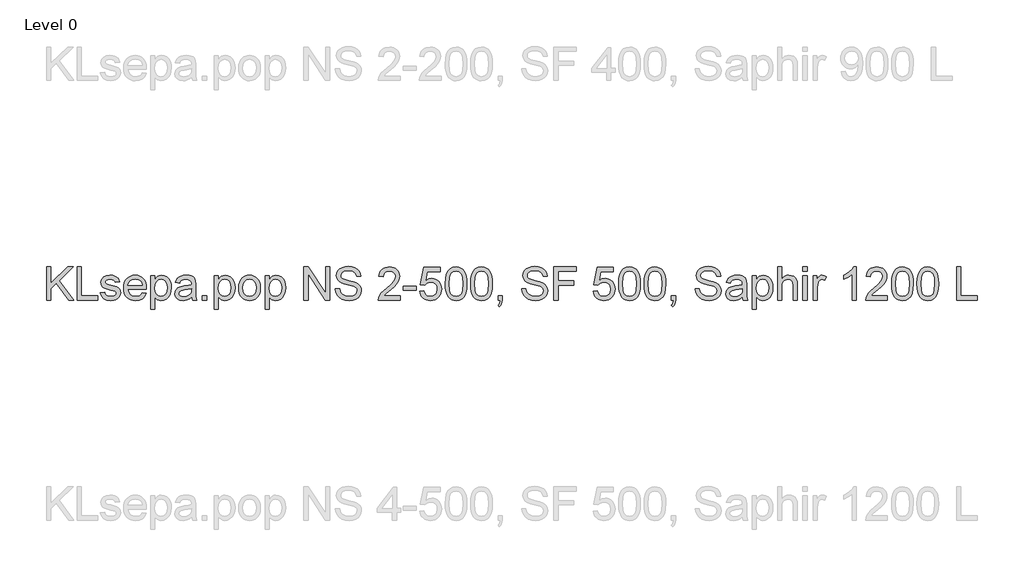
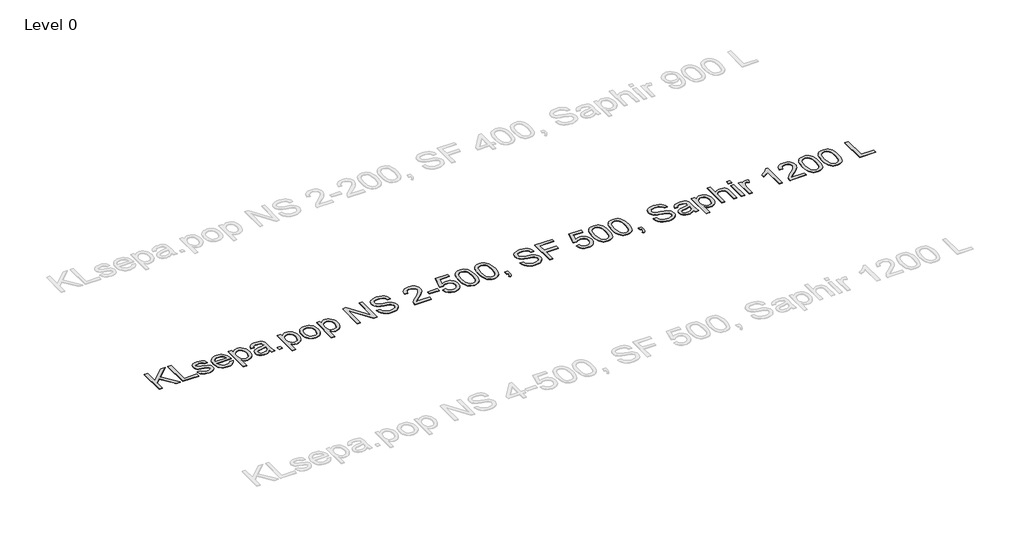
# One storey, part 10 of 15: 1 proxy.
"""IFC4 building model written with IfcOpenShell, lengths in millimetres."""

from ifc_helpers import new_model, si_unit, origin, origin_with_axes, place, context, project, spatial, polyline, outline, extrude, element, save

model = new_model("IFC4")

# Units and contexts
model_context = context("Model", 3, world=origin())
ifc_project = project(units=[si_unit("LENGTHUNIT", "METRE", prefix="MILLI")], contexts=[model_context])

# Site, building, storey
site = spatial("IfcSite", under=ifc_project)
building = spatial("IfcBuilding", under=site)
storey = spatial("IfcBuildingStorey", under=building, Name="Level 0", Elevation=0.0)

# Proxy
placement = place(None, origin())
element("IfcBuildingElementProxy", 1, Name="300mm Arial", ObjectType="300mm Arial", at=placement, inside=storey, context=model_context, shape_type="SweptSolid", body=[
    extrude(outline(polyline([(862.8420262, 2199.0232018), (862.8420262, 2500.3921323), (900.5131425, 2500.3921323), (900.5131425, 2352.8714522), (1055.0235805, 2500.3921323), (1107.7042822, 2500.3921323), (977.9890907, 2376.4894763), (1112.4131718, 2199.0232018), (1066.354346, 2199.0232018), (951.2808579, 2351.0320422), (900.5131425, 2302.6187717), (900.5131425, 2199.0232018), (862.8420262, 2199.0232018)])), origin_with_axes(), (0.0, 0.0, 1.0), 5.0),
    extrude(outline(polyline([(1140.666509, 2199.0232018), (1140.666509, 2500.3921323), (1178.3376253, 2500.3921323), (1178.3376253, 2236.6943181), (1329.0220905, 2236.6943181), (1329.0220905, 2199.0232018), (1140.666509, 2199.0232018)])), origin_with_axes(), (0.0, 0.0, 1.0), 5.0),
    extrude(outline(polyline([(1352.5665382, 2264.9476554), (1390.2376545, 2269.6565449), (1396.1789487, 2253.5433135), (1407.6752611, 2241.6975133), (1424.800168, 2234.4134498), (1447.6272458, 2231.9854286), (1470.1784121, 2234.2111147), (1486.0341261, 2240.8881729), (1495.4151169, 2250.5634693), (1498.5421139, 2261.7838702), (1495.3967228, 2271.3855903), (1485.9605497, 2278.706442), (1447.1857874, 2289.4485962), (1390.4583837, 2307.8794842), (1376.1017888, 2317.1409134), (1365.6999254, 2329.4005809), (1359.3815522, 2343.8767374), (1357.2754277, 2359.7876337), (1358.9676849, 2374.3833519), (1364.0444565, 2387.8570299), (1372.0458899, 2399.675239), (1382.5121326, 2409.3045503), (1406.4612505, 2420.4513747), (1438.8716543, 2425.0498997), (1463.3909893, 2423.2012926), (1484.7097509, 2417.6554716), (1501.8530519, 2408.9550624), (1513.8460049, 2397.642691), (1521.792256, 2382.881426), (1526.7954511, 2363.8343357), (1489.1243348, 2359.1254461), (1484.36946, 2370.9804434), (1474.960878, 2379.9107789), (1460.8066182, 2385.5117822), (1441.8147102, 2387.3787834), (1420.1832489, 2385.5945557), (1405.7622747, 2380.2418726), (1397.6504767, 2372.5163507), (1394.9465441, 2363.6136065), (1399.4347044, 2352.650723), (1413.4877966, 2344.3365899), (1445.9349886, 2336.3167624), (1501.2276525, 2318.5848503), (1515.8325677, 2310.1051703), (1526.9058157, 2298.4984933), (1533.8863766, 2283.7280312), (1536.2132302, 2265.7569957), (1533.4817064, 2247.178955), (1525.2871349, 2229.7045602), (1511.9422156, 2214.7041719), (1493.759648, 2203.5481504), (1471.7970928, 2196.6227718), (1447.112211, 2194.3143123), (1409.128395, 2198.7656844), (1381.4084866, 2212.1198009), (1362.9040223, 2234.2295088), (1352.5665382, 2264.9476554)])), origin_with_axes(), (0.0, 0.0, 1.0), 5.0),
    extrude(outline(polyline([(1733.5451324, 2264.9476554), (1770.4804847, 2260.2387658), (1757.1723536, 2232.4084929), (1735.9363654, 2211.6047661), (1707.2507668, 2198.6369257), (1671.5938044, 2194.3143123), (1648.2195022, 2196.1790141), (1627.3927827, 2201.7731197), (1609.1136461, 2211.0966291), (1593.3820923, 2224.1495421), (1580.7315501, 2240.5685754), (1571.6954486, 2259.9904455), (1566.2737877, 2282.4151523), (1564.4665674, 2307.842696), (1566.2921818, 2334.1324631), (1571.769025, 2357.3044302), (1580.897097, 2377.3585975), (1593.6763978, 2394.2949649), (1609.3665649, 2407.7502488), (1627.2272358, 2417.361166), (1647.2584104, 2423.1277162), (1669.4600889, 2425.0498997), (1690.9466966, 2423.1323148), (1710.3777638, 2417.3795601), (1727.7532903, 2407.7916356), (1743.0732761, 2394.3685413), (1755.5789647, 2377.4689621), (1764.5115994, 2357.451583), (1769.8711802, 2334.3164041), (1771.6577071, 2308.0634252), (1771.4369779, 2297.9098821), (1602.1376837, 2297.9098821), (1608.6583921, 2269.7117272), (1623.8059333, 2248.9815768), (1645.6673208, 2236.2344656), (1672.3295684, 2231.9854286), (1692.3791372, 2233.9535973), (1709.2649207, 2239.8581033), (1722.9869192, 2250.0668287), (1733.5451324, 2264.9476554)]), holes=[polyline([(1602.1376837, 2335.5809984), (1733.9865908, 2335.5809984), (1728.8914252, 2355.4834144), (1718.903429, 2369.7204476), (1696.9408739, 2382.9641994), (1669.3129361, 2387.3787834), (1643.9198813, 2383.8563132), (1622.9230165, 2373.2889029), (1608.3272983, 2356.8169866), (1602.1376837, 2335.5809984)])]), origin_with_axes(), (0.0, 0.0, 1.0), 5.0),
    extrude(outline(polyline([(1809.3288234, 2114.2631901), (1809.3288234, 2420.3410101), (1846.9999397, 2420.3410101), (1846.9999397, 2383.4056578), (1859.2871984, 2401.6250136), (1873.045985, 2414.6388392), (1889.08564, 2422.4471345), (1908.2155037, 2425.0498997), (1933.6913319, 2421.4078679), (1955.9665867, 2410.4817726), (1974.1031691, 2392.9338015), (1987.1629799, 2369.426142), (1995.0540487, 2341.6694455), (1997.6844049, 2311.3743631), (1994.7137578, 2279.1570974), (1985.8018165, 2250.3427401), (1971.2336895, 2226.3936223), (1951.2944854, 2208.7720747), (1928.0719344, 2197.9287529), (1903.653767, 2194.3143123), (1886.3357221, 2196.7331364), (1870.8754812, 2203.9896088), (1857.6409264, 2214.9432952), (1846.9999397, 2228.4537614), (1846.9999397, 2114.2631901), (1809.3288234, 2114.2631901)]), holes=[polyline([(1846.9999397, 2307.9162724), (1851.0742328, 2274.1447052), (1863.2971121, 2250.5266811), (1881.3325269, 2236.6207417), (1902.8444266, 2231.9854286), (1924.7058142, 2236.7862886), (1943.2010815, 2251.1888687), (1955.8102368, 2275.6714155), (1960.0132886, 2310.7121756), (1955.9114044, 2344.2998017), (1943.6057517, 2368.2489196), (1925.597928, 2382.5963174), (1904.389531, 2387.3787834), (1883.0983605, 2382.2928148), (1864.4007581, 2367.034909), (1851.3501443, 2342.0833127), (1846.9999397, 2307.9162724)])]), origin_with_axes(), (0.0, 0.0, 1.0), 5.0),
    extrude(outline(polyline([(2181.3310969, 2227.2765391), (2163.3324703, 2211.8438894), (2144.8004148, 2201.7455286), (2125.3118661, 2196.1721164), (2104.44376, 2194.3143123), (2072.9622582, 2198.7840785), (2049.7397073, 2212.1933772), (2035.4199006, 2232.5556457), (2030.6466317, 2257.8843211), (2032.4492535, 2273.5009117), (2037.8571188, 2287.6827627), (2046.1988431, 2299.8228685), (2056.8030416, 2309.314224), (2083.1801806, 2321.675059), (2115.7745254, 2327.3404417), (2154.2917703, 2333.3001301), (2181.1103677, 2340.289888), (2181.3310969, 2348.6775975), (2178.7375289, 2365.4898046), (2170.9568247, 2376.4894763), (2153.5560063, 2384.6564566), (2129.3125828, 2387.3787834), (2106.8717811, 2385.5669645), (2091.2000081, 2380.131508), (2080.5130362, 2370.0791325), (2073.0266376, 2354.4165566), (2035.3555213, 2359.1254461), (2041.8946237, 2379.7268379), (2051.6526936, 2395.9136456), (2065.540239, 2408.2928748), (2084.4677676, 2417.4715306), (2107.6167422, 2423.1553074), (2134.1686252, 2425.0498997), (2159.6352563, 2423.3760366), (2179.8227808, 2418.3544473), (2195.0438983, 2410.8036694), (2205.6113086, 2401.5422402), (2212.6194606, 2390.0919131), (2217.1628033, 2375.9744415), (2219.0022132, 2343.0122147), (2219.0022132, 2296.1440485), (2220.9151996, 2230.6978416), (2228.4199923, 2199.0232018), (2190.748876, 2199.0232018), (2181.3310969, 2227.2765391)]), holes=[polyline([(2181.3310969, 2302.6187717), (2120.5569913, 2291.067277), (2088.1465876, 2284.9604359), (2073.468096, 2275.027622), (2068.317748, 2260.5330714), (2071.1228482, 2249.3310647), (2079.5381489, 2240.1524089), (2093.3797089, 2234.0271737), (2112.4635874, 2231.9854286), (2132.6970972, 2234.2387058), (2150.5761621, 2240.9985375), (2165.0707128, 2250.9589425), (2175.1506794, 2262.8139398), (2179.6204457, 2275.027622), (2181.1103677, 2291.9501938), (2181.3310969, 2302.6187717)])]), origin_with_axes(), (0.0, 0.0, 1.0), 5.0),
    extrude(outline(polyline([(2280.2177772, 2199.0232018), (2280.2177772, 2236.6943181), (2317.8888936, 2236.6943181), (2317.8888936, 2199.0232018), (2280.2177772, 2199.0232018)])), origin_with_axes(), (0.0, 0.0, 1.0), 5.0),
    extrude(outline(polyline([(2388.5222366, 2114.2631901), (2388.5222366, 2420.3410101), (2426.1933529, 2420.3410101), (2426.1933529, 2383.4056578), (2438.4806116, 2401.6250136), (2452.2393982, 2414.6388392), (2468.2790532, 2422.4471345), (2487.4089169, 2425.0498997), (2512.8847451, 2421.4078679), (2535.1599999, 2410.4817726), (2553.2965823, 2392.9338015), (2566.3563931, 2369.426142), (2574.2474619, 2341.6694455), (2576.8778182, 2311.3743631), (2573.907171, 2279.1570974), (2564.9952297, 2250.3427401), (2550.4271027, 2226.3936223), (2530.4878986, 2208.7720747), (2507.2653476, 2197.9287529), (2482.8471802, 2194.3143123), (2465.5291353, 2196.7331364), (2450.0688944, 2203.9896088), (2436.8343396, 2214.9432952), (2426.1933529, 2228.4537614), (2426.1933529, 2114.2631901), (2388.5222366, 2114.2631901)]), holes=[polyline([(2426.1933529, 2307.9162724), (2430.267646, 2274.1447052), (2442.4905253, 2250.5266811), (2460.5259401, 2236.6207417), (2482.0378398, 2231.9854286), (2503.8992274, 2236.7862886), (2522.3944947, 2251.1888687), (2535.0036501, 2275.6714155), (2539.2067019, 2310.7121756), (2535.1048176, 2344.2998017), (2522.7991649, 2368.2489196), (2504.7913412, 2382.5963174), (2483.5829442, 2387.3787834), (2462.2917737, 2382.2928148), (2443.5941713, 2367.034909), (2430.5435575, 2342.0833127), (2426.1933529, 2307.9162724)])]), origin_with_axes(), (0.0, 0.0, 1.0), 5.0),
    extrude(outline(polyline([(2609.8400449, 2309.682106), (2611.8771915, 2338.3447119), (2617.9886311, 2363.0433894), (2628.1743639, 2383.7781383), (2642.4343897, 2400.5489588), (2656.7909846, 2411.2681204), (2672.6375015, 2418.9246644), (2689.9739405, 2423.5185909), (2708.8003016, 2425.0498997), (2729.5833351, 2423.1851978), (2748.3752073, 2417.5910922), (2765.1759181, 2408.2675829), (2779.9854677, 2395.2146698), (2792.0726905, 2378.8738115), (2800.7064211, 2359.6864662), (2805.8866594, 2337.6526339), (2807.6134055, 2312.7723147), (2804.559985, 2274.7149223), (2795.3997233, 2245.7442152), (2780.3993349, 2224.0483745), (2759.8255344, 2207.8155815), (2735.3889728, 2197.6896296), (2708.8003016, 2194.3143123), (2687.7137655, 2196.1721164), (2668.7471494, 2201.7455286), (2651.9004533, 2211.034549), (2637.1736772, 2224.0391775), (2625.2152131, 2240.538685), (2616.673453, 2260.3123422), (2611.5483969, 2283.3601492), (2609.8400449, 2309.682106)]), holes=[polyline([(2647.5111612, 2309.7556824), (2651.8705629, 2275.6622185), (2664.9487678, 2251.3728097), (2684.6304545, 2236.8322739), (2708.8003016, 2231.9854286), (2732.8597841, 2236.859865), (2752.5046827, 2251.4831743), (2765.5828876, 2276.0944798), (2769.9422892, 2310.9329048), (2765.5552964, 2344.0330873), (2752.3943181, 2367.9914022), (2732.7218284, 2382.5319381), (2708.8003016, 2387.3787834), (2684.6304545, 2382.5503322), (2664.9487678, 2368.0649786), (2651.8705629, 2343.8307522), (2647.5111612, 2309.7556824)])]), origin_with_axes(), (0.0, 0.0, 1.0), 5.0),
    extrude(outline(polyline([(2849.9934114, 2114.2631901), (2849.9934114, 2420.3410101), (2887.6645277, 2420.3410101), (2887.6645277, 2383.4056578), (2899.9517863, 2401.6250136), (2913.7105729, 2414.6388392), (2929.7502279, 2422.4471345), (2948.8800917, 2425.0498997), (2974.3559198, 2421.4078679), (2996.6311747, 2410.4817726), (3014.767757, 2392.9338015), (3027.8275678, 2369.426142), (3035.7186366, 2341.6694455), (3038.3489929, 2311.3743631), (3035.3783458, 2279.1570974), (3026.4664045, 2250.3427401), (3011.8982775, 2226.3936223), (2991.9590733, 2208.7720747), (2968.7365224, 2197.9287529), (2944.3183549, 2194.3143123), (2927.00031, 2196.7331364), (2911.5400692, 2203.9896088), (2898.3055144, 2214.9432952), (2887.6645277, 2228.4537614), (2887.6645277, 2114.2631901), (2849.9934114, 2114.2631901)]), holes=[polyline([(2887.6645277, 2307.9162724), (2891.7388208, 2274.1447052), (2903.9617001, 2250.5266811), (2921.9971149, 2236.6207417), (2943.5090145, 2231.9854286), (2965.3704021, 2236.7862886), (2983.8656694, 2251.1888687), (2996.4748248, 2275.6714155), (3000.6778766, 2310.7121756), (2996.5759924, 2344.2998017), (2984.2703396, 2368.2489196), (2966.262516, 2382.5963174), (2945.0541189, 2387.3787834), (2923.7629485, 2382.2928148), (2905.0653461, 2367.034909), (2892.0147323, 2342.0833127), (2887.6645277, 2307.9162724)])]), origin_with_axes(), (0.0, 0.0, 1.0), 5.0),
    extrude(outline(polyline([(3203.1601267, 2199.0232018), (3203.1601267, 2500.3921323), (3243.4799934, 2500.3921323), (3400.9334874, 2261.6367174), (3400.9334874, 2500.3921323), (3438.6046037, 2500.3921323), (3438.6046037, 2199.0232018), (3398.284737, 2199.0232018), (3240.8312431, 2437.8521931), (3240.8312431, 2199.0232018), (3203.1601267, 2199.0232018)])), origin_with_axes(), (0.0, 0.0, 1.0), 5.0),
    extrude(outline(polyline([(3490.4023886, 2302.6187717), (3528.0735049, 2302.6187717), (3532.3961183, 2281.7138773), (3540.2136107, 2264.9108672), (3552.4088989, 2251.5751448), (3569.8648995, 2241.0721139), (3591.2020553, 2234.2570999), (3615.0408085, 2231.9854286), (3636.0284764, 2233.7052769), (3654.404182, 2238.8648219), (3669.2942058, 2247.0318022), (3679.8248279, 2257.7739565), (3686.0880189, 2270.1072003), (3688.1757492, 2283.0474495), (3686.6122507, 2295.6566049), (3681.9217553, 2306.555109), (3672.3936116, 2315.8533264), (3656.3171684, 2323.6616218), (3601.4659629, 2338.0458078), (3565.4595126, 2347.5647544), (3542.4209027, 2356.6238486), (3523.668118, 2369.2973833), (3510.3783809, 2384.6564566), (3502.459721, 2402.3699747), (3499.8201677, 2422.1068437), (3503.0851204, 2444.1705664), (3512.8799785, 2464.7443669), (3528.9472246, 2482.1819735), (3551.0293414, 2494.8371141), (3577.5352391, 2502.5350449), (3606.8738283, 2505.1010218), (3638.6588326, 2502.4154832), (3666.4707115, 2494.3588675), (3689.3161834, 2481.0967216), (3706.2019669, 2462.7945924), (3716.8889389, 2440.592914), (3721.137976, 2415.6321206), (3683.4668596, 2415.6321206), (3676.5506781, 2438.1097105), (3662.1297039, 2454.3333065), (3639.5969317, 2464.1557557), (3608.3453562, 2467.4299055), (3576.3580168, 2464.1925439), (3554.4138557, 2454.4804593), (3541.7219269, 2440.1882438), (3537.491284, 2423.2104897), (3540.4895222, 2408.7343332), (3549.484237, 2397.090868), (3570.7478163, 2386.6798076), (3610.9941066, 2376.0480179), (3652.5279839, 2365.9496571), (3677.6543241, 2357.1388833), (3699.1294356, 2343.4720672), (3714.1114298, 2326.6046777), (3722.9130066, 2306.7206559), (3725.8468655, 2284.0039427), (3722.4715482, 2260.7813918), (3712.3455963, 2238.9383983), (3695.882877, 2220.1396283), (3673.4972576, 2206.0497479), (3646.5774926, 2197.2481712), (3616.5123365, 2194.3143123), (3579.6045754, 2197.4780974), (3549.2267196, 2206.9694529), (3525.0292814, 2222.8251669), (3506.6627728, 2245.0820276), (3494.8721548, 2272.1949307), (3490.4023886, 2302.6187717)])), origin_with_axes(), (0.0, 0.0, 1.0), 5.0),
    extrude(outline(polyline([(4079.0135809, 2236.6943181), (4079.0135809, 2199.0232018), (3881.2402203, 2199.0232018), (3885.2869222, 2224.9956707), (3894.5759426, 2245.2935598), (3908.1691823, 2264.9844436), (3927.8324749, 2285.5950323), (3955.3316541, 2308.6520364), (3995.9826146, 2344.7596542), (4020.3731908, 2371.4127048), (4032.568479, 2393.0441661), (4036.633575, 2414.0870162), (4032.7984052, 2432.9501655), (4021.2928958, 2448.6311355), (4003.6069689, 2459.1985459), (3981.2305465, 2462.721016), (3957.7320841, 2459.2813193), (3939.4759401, 2448.9622293), (3927.6945192, 2432.5730865), (3923.6202261, 2410.923231), (3885.9491098, 2415.6321206), (3895.0817803, 2452.0708322), (3903.6281389, 2466.6067695), (3914.8278464, 2478.6870946), (3928.4233854, 2488.1830486), (3944.1572385, 2494.9658728), (3982.0398869, 2500.3921323), (4002.2297107, 2498.8838161), (4020.1984469, 2494.3588675), (4035.9460955, 2486.8172866), (4049.4726566, 2476.2590734), (4060.3366718, 2463.465977), (4068.0966827, 2449.2197467), (4072.7526892, 2433.5203826), (4074.3046913, 2416.3678846), (4072.6308282, 2398.3508639), (4067.609239, 2380.6465428), (4058.6972977, 2362.6387192), (4045.3523783, 2343.7111905), (4024.0796019, 2321.114039), (3991.3840896, 2292.0973466), (3948.0475906, 2255.8609701), (3931.0514424, 2236.6943181), (4079.0135809, 2236.6943181)])), origin_with_axes(), (0.0, 0.0, 1.0), 5.0),
    extrude(outline(polyline([(4107.2669181, 2288.492103), (4107.2669181, 2326.1632194), (4224.9891565, 2326.1632194), (4224.9891565, 2288.492103), (4107.2669181, 2288.492103)])), origin_with_axes(), (0.0, 0.0, 1.0), 5.0),
    extrude(outline(polyline([(4257.9513833, 2279.074324), (4295.6224996, 2283.7832135), (4302.5386811, 2261.1676679), (4314.6052106, 2244.971663), (4331.7669056, 2235.2319872), (4353.9685841, 2231.9854286), (4380.9711225, 2236.5011801), (4401.2046322, 2250.0484346), (4413.8413788, 2271.0636935), (4418.0536276, 2297.9834585), (4414.1080932, 2323.330528), (4402.27149, 2342.7179091), (4382.4518475, 2355.0235619), (4354.5571952, 2359.1254461), (4336.2826571, 2357.4883712), (4321.4846039, 2352.5771466), (4300.3313892, 2335.5809984), (4262.6602729, 2340.289888), (4295.6224996, 2495.6832427), (4441.5980753, 2495.6832427), (4441.5980753, 2458.0121264), (4326.0831288, 2458.0121264), (4309.9698974, 2375.0179483), (4336.8804654, 2391.3519089), (4365.0786203, 2396.7965624), (4383.4244356, 2395.1089038), (4400.2757302, 2390.0459278), (4415.6325042, 2381.6076346), (4429.4947577, 2369.794024), (4440.9703767, 2355.3270645), (4449.1672474, 2338.9287246), (4454.0853698, 2320.5990042), (4455.7247439, 2300.3379033), (4449.8202379, 2262.666787), (4442.4396054, 2245.8729739), (4432.1067198, 2230.4403242), (4416.4533409, 2214.635194), (4398.1879999, 2203.3458153), (4377.3106967, 2196.572188), (4353.8214313, 2194.3143123), (4316.8216996, 2200.1176508), (4301.1430288, 2207.3718238), (4287.3451547, 2217.5276662), (4275.8649372, 2230.07934), (4267.1392361, 2244.5210076), (4257.9513833, 2279.074324)])), origin_with_axes(), (0.0, 0.0, 1.0), 5.0),
    extrude(outline(polyline([(4488.6869707, 2347.2796459), (4491.4552827, 2395.5181725), (4499.7602187, 2433.9894321), (4513.5190054, 2463.282036), (4532.6488691, 2483.9845953), (4557.2877657, 2496.290248), (4587.573651, 2500.3921323), (4610.7870049, 2497.9641111), (4631.5723376, 2490.6800476), (4648.9547619, 2478.8250503), (4661.9593904, 2462.6842278), (4671.7818397, 2442.3955357), (4679.6177262, 2418.0969299), (4684.74968, 2387.2408276), (4686.4603313, 2347.2796459), (4683.7196104, 2299.3170308), (4675.4974478, 2260.9377416), (4661.8214347, 2231.6175466), (4642.7191621, 2210.8322139), (4618.0250831, 2198.4437877), (4587.573651, 2194.3143123), (4566.8251065, 2196.107737), (4548.4310067, 2201.4880112), (4532.3913517, 2210.4551348), (4518.7061415, 2223.0091079), (4505.5727543, 2245.7028285), (4496.1917634, 2273.9791583), (4490.5631689, 2307.8380975), (4488.6869707, 2347.2796459)]), holes=[polyline([(4526.358087, 2347.3532223), (4530.7726709, 2288.0966299), (4536.2909009, 2267.8286312), (4544.0164228, 2253.8008309), (4563.7348977, 2237.4392792), (4587.573651, 2231.9854286), (4611.4124043, 2237.4576733), (4631.1308792, 2253.8744073), (4638.8564011, 2267.9252003), (4644.374631, 2288.1886004), (4648.789215, 2347.3532223), (4644.5217838, 2405.2762424), (4639.1874949, 2425.4775625), (4631.7194904, 2439.8387559), (4612.0378037, 2457.0004509), (4587.1321926, 2462.721016), (4563.5509567, 2457.6810326), (4544.605034, 2442.5610826), (4536.6219947, 2426.9260978), (4530.9198237, 2405.8464595), (4526.358087, 2347.3532223)])]), origin_with_axes(), (0.0, 0.0, 1.0), 5.0),
    extrude(outline(polyline([(4719.4225581, 2347.2796459), (4722.1908701, 2395.5181725), (4730.4958061, 2433.9894321), (4744.2545927, 2463.282036), (4763.3844565, 2483.9845953), (4788.0233531, 2496.290248), (4818.3092384, 2500.3921323), (4841.5225923, 2497.9641111), (4862.307925, 2490.6800476), (4879.6903493, 2478.8250503), (4892.6949778, 2462.6842278), (4902.5174271, 2442.3955357), (4910.3533136, 2418.0969299), (4915.4852674, 2387.2408276), (4917.1959187, 2347.2796459), (4914.4551978, 2299.3170308), (4906.2330352, 2260.9377416), (4892.557022, 2231.6175466), (4873.4547494, 2210.8322139), (4848.7606705, 2198.4437877), (4818.3092384, 2194.3143123), (4797.5606938, 2196.107737), (4779.1665941, 2201.4880112), (4763.1269391, 2210.4551348), (4749.4417289, 2223.0091079), (4736.3083416, 2245.7028285), (4726.9273508, 2273.9791583), (4721.2987562, 2307.8380975), (4719.4225581, 2347.2796459)]), holes=[polyline([(4757.0936744, 2347.3532223), (4761.5082583, 2288.0966299), (4767.0264882, 2267.8286312), (4774.7520101, 2253.8008309), (4794.4704851, 2237.4392792), (4818.3092384, 2231.9854286), (4842.1479917, 2237.4576733), (4861.8664666, 2253.8744073), (4869.5919885, 2267.9252003), (4875.1102184, 2288.1886004), (4879.5248024, 2347.3532223), (4875.2573712, 2405.2762424), (4869.9230823, 2425.4775625), (4862.4550778, 2439.8387559), (4842.773391, 2457.0004509), (4817.86778, 2462.721016), (4794.2865441, 2457.6810326), (4775.3406213, 2442.5610826), (4767.357582, 2426.9260978), (4761.6554111, 2405.8464595), (4757.0936744, 2347.3532223)])]), origin_with_axes(), (0.0, 0.0, 1.0), 5.0),
    extrude(outline(polyline([(4968.9937036, 2199.0232018), (4968.9937036, 2236.6943181), (5006.6648199, 2236.6943181), (5006.6648199, 2199.0232018), (5004.9725627, 2177.474514), (4999.8957912, 2160.5059569), (4991.1401997, 2147.4921313), (4978.4114827, 2137.8076378), (4968.9937036, 2151.9343064), (4977.1606839, 2158.7585174), (4982.8260666, 2168.1946906), (4987.7556853, 2199.0232018), (4968.9937036, 2199.0232018)])), origin_with_axes(), (0.0, 0.0, 1.0), 5.0),
    extrude(outline(polyline([(5185.6026224, 2302.6187717), (5223.2737387, 2302.6187717), (5227.5963521, 2281.7138773), (5235.4138445, 2264.9108672), (5247.6091326, 2251.5751448), (5265.0651333, 2241.0721139), (5286.402289, 2234.2570999), (5310.2410423, 2231.9854286), (5331.2287101, 2233.7052769), (5349.6044158, 2238.8648219), (5364.4944396, 2247.0318022), (5375.0250617, 2257.7739565), (5381.2882526, 2270.1072003), (5383.375983, 2283.0474495), (5381.8124845, 2295.6566049), (5377.121989, 2306.555109), (5367.5938454, 2315.8533264), (5351.5174022, 2323.6616218), (5296.6661967, 2338.0458078), (5260.6597464, 2347.5647544), (5237.6211365, 2356.6238486), (5218.8683518, 2369.2973833), (5205.5786147, 2384.6564566), (5197.6599547, 2402.3699747), (5195.0204014, 2422.1068437), (5198.2853541, 2444.1705664), (5208.0802123, 2464.7443669), (5224.1474584, 2482.1819735), (5246.2295752, 2494.8371141), (5272.7354729, 2502.5350449), (5302.074062, 2505.1010218), (5333.8590664, 2502.4154832), (5361.6709452, 2494.3588675), (5384.5164171, 2481.0967216), (5401.4022007, 2462.7945924), (5412.0891727, 2440.592914), (5416.3382097, 2415.6321206), (5378.6670934, 2415.6321206), (5371.7509119, 2438.1097105), (5357.3299377, 2454.3333065), (5334.7971655, 2464.1557557), (5303.54559, 2467.4299055), (5271.5582505, 2464.1925439), (5249.6140895, 2454.4804593), (5236.9221607, 2440.1882438), (5232.6915177, 2423.2104897), (5235.689756, 2408.7343332), (5244.6844708, 2397.090868), (5265.9480501, 2386.6798076), (5306.1943404, 2376.0480179), (5347.7282176, 2365.9496571), (5372.8545579, 2357.1388833), (5394.3296694, 2343.4720672), (5409.3116636, 2326.6046777), (5418.1132404, 2306.7206559), (5421.0470993, 2284.0039427), (5417.671782, 2260.7813918), (5407.54583, 2238.9383983), (5391.0831108, 2220.1396283), (5368.6974914, 2206.0497479), (5341.7777264, 2197.2481712), (5311.7125703, 2194.3143123), (5274.8048091, 2197.4780974), (5244.4269534, 2206.9694529), (5220.2295151, 2222.8251669), (5201.8630065, 2245.0820276), (5190.0723886, 2272.1949307), (5185.6026224, 2302.6187717)])), origin_with_axes(), (0.0, 0.0, 1.0), 5.0),
    extrude(outline(polyline([(5477.5537737, 2199.0232018), (5477.5537737, 2500.3921323), (5680.0360239, 2500.3921323), (5680.0360239, 2462.721016), (5515.22489, 2462.721016), (5515.22489, 2373.2521147), (5656.4915762, 2373.2521147), (5656.4915762, 2335.5809984), (5515.22489, 2335.5809984), (5515.22489, 2199.0232018), (5477.5537737, 2199.0232018)])), origin_with_axes(), (0.0, 0.0, 1.0), 5.0),
    extrude(outline(polyline([(5835.4293786, 2279.074324), (5873.1004949, 2283.7832135), (5880.0166764, 2261.1676679), (5892.0832059, 2244.971663), (5909.244901, 2235.2319872), (5931.4465794, 2231.9854286), (5958.4491178, 2236.5011801), (5978.6826276, 2250.0484346), (5991.3193741, 2271.0636935), (5995.5316229, 2297.9834585), (5991.5860885, 2323.330528), (5979.7494853, 2342.7179091), (5959.9298429, 2355.0235619), (5932.0351906, 2359.1254461), (5913.7606525, 2357.4883712), (5898.9625992, 2352.5771466), (5877.8093845, 2335.5809984), (5840.1382682, 2340.289888), (5873.1004949, 2495.6832427), (6019.0760706, 2495.6832427), (6019.0760706, 2458.0121264), (5903.5611241, 2458.0121264), (5887.4478928, 2375.0179483), (5914.3584607, 2391.3519089), (5942.5566156, 2396.7965624), (5960.9024309, 2395.1089038), (5977.7537255, 2390.0459278), (5993.1104996, 2381.6076346), (6006.972753, 2369.794024), (6018.448372, 2355.3270645), (6026.6452427, 2338.9287246), (6031.5633651, 2320.5990042), (6033.2027392, 2300.3379033), (6027.2982332, 2262.666787), (6019.9176007, 2245.8729739), (6009.5847152, 2230.4403242), (5993.9313363, 2214.635194), (5975.6659952, 2203.3458153), (5954.788692, 2196.572188), (5931.2994266, 2194.3143123), (5894.2996949, 2200.1176508), (5878.6210241, 2207.3718238), (5864.82315, 2217.5276662), (5853.3429325, 2230.07934), (5844.6172315, 2244.5210076), (5835.4293786, 2279.074324)])), origin_with_axes(), (0.0, 0.0, 1.0), 5.0),
    extrude(outline(polyline([(6066.164966, 2347.2796459), (6068.933278, 2395.5181725), (6077.2382141, 2433.9894321), (6090.9970007, 2463.282036), (6110.1268644, 2483.9845953), (6134.7657611, 2496.290248), (6165.0516463, 2500.3921323), (6188.2650002, 2497.9641111), (6209.0503329, 2490.6800476), (6226.4327572, 2478.8250503), (6239.4373857, 2462.6842278), (6249.259835, 2442.3955357), (6257.0957215, 2418.0969299), (6262.2276753, 2387.2408276), (6263.9383266, 2347.2796459), (6261.1976058, 2299.3170308), (6252.9754432, 2260.9377416), (6239.29943, 2231.6175466), (6220.1971574, 2210.8322139), (6195.5030785, 2198.4437877), (6165.0516463, 2194.3143123), (6144.3031018, 2196.107737), (6125.909002, 2201.4880112), (6109.869347, 2210.4551348), (6096.1841368, 2223.0091079), (6083.0507496, 2245.7028285), (6073.6697587, 2273.9791583), (6068.0411642, 2307.8380975), (6066.164966, 2347.2796459)]), holes=[polyline([(6103.8360823, 2347.3532223), (6108.2506663, 2288.0966299), (6113.7688962, 2267.8286312), (6121.4944181, 2253.8008309), (6141.212893, 2237.4392792), (6165.0516463, 2231.9854286), (6188.8903996, 2237.4576733), (6208.6088745, 2253.8744073), (6216.3343964, 2267.9252003), (6221.8526264, 2288.1886004), (6226.2672103, 2347.3532223), (6221.9997792, 2405.2762424), (6216.6654902, 2425.4775625), (6209.1974857, 2439.8387559), (6189.515799, 2457.0004509), (6164.6101879, 2462.721016), (6141.028952, 2457.6810326), (6122.0830293, 2442.5610826), (6114.09999, 2426.9260978), (6108.3978191, 2405.8464595), (6103.8360823, 2347.3532223)])]), origin_with_axes(), (0.0, 0.0, 1.0), 5.0),
    extrude(outline(polyline([(6296.9005534, 2347.2796459), (6299.6688654, 2395.5181725), (6307.9738014, 2433.9894321), (6321.7325881, 2463.282036), (6340.8624518, 2483.9845953), (6365.5013484, 2496.290248), (6395.7872337, 2500.3921323), (6419.0005876, 2497.9641111), (6439.7859203, 2490.6800476), (6457.1683446, 2478.8250503), (6470.1729731, 2462.6842278), (6479.9954224, 2442.3955357), (6487.8313089, 2418.0969299), (6492.9632627, 2387.2408276), (6494.673914, 2347.2796459), (6491.9331931, 2299.3170308), (6483.7110305, 2260.9377416), (6470.0350174, 2231.6175466), (6450.9327448, 2210.8322139), (6426.2386658, 2198.4437877), (6395.7872337, 2194.3143123), (6375.0386892, 2196.107737), (6356.6445894, 2201.4880112), (6340.6049344, 2210.4551348), (6326.9197242, 2223.0091079), (6313.786337, 2245.7028285), (6304.4053461, 2273.9791583), (6298.7767516, 2307.8380975), (6296.9005534, 2347.2796459)]), holes=[polyline([(6334.5716697, 2347.3532223), (6338.9862536, 2288.0966299), (6344.5044836, 2267.8286312), (6352.2300055, 2253.8008309), (6371.9484804, 2237.4392792), (6395.7872337, 2231.9854286), (6419.625987, 2237.4576733), (6439.3444619, 2253.8744073), (6447.0699838, 2267.9252003), (6452.5882137, 2288.1886004), (6457.0027977, 2347.3532223), (6452.7353665, 2405.2762424), (6447.4010776, 2425.4775625), (6439.9330731, 2439.8387559), (6420.2513864, 2457.0004509), (6395.3457753, 2462.721016), (6371.7645394, 2457.6810326), (6352.8186167, 2442.5610826), (6344.8355774, 2426.9260978), (6339.1334064, 2405.8464595), (6334.5716697, 2347.3532223)])]), origin_with_axes(), (0.0, 0.0, 1.0), 5.0),
    extrude(outline(polyline([(6546.4716989, 2199.0232018), (6546.4716989, 2236.6943181), (6584.1428152, 2236.6943181), (6584.1428152, 2199.0232018), (6582.450558, 2177.474514), (6577.3737865, 2160.5059569), (6568.618195, 2147.4921313), (6555.889478, 2137.8076378), (6546.4716989, 2151.9343064), (6554.6386792, 2158.7585174), (6560.3040619, 2168.1946906), (6565.2336807, 2199.0232018), (6546.4716989, 2199.0232018)])), origin_with_axes(), (0.0, 0.0, 1.0), 5.0),
    extrude(outline(polyline([(6763.0806177, 2302.6187717), (6800.751734, 2302.6187717), (6805.0743474, 2281.7138773), (6812.8918398, 2264.9108672), (6825.087128, 2251.5751448), (6842.5431286, 2241.0721139), (6863.8802844, 2234.2570999), (6887.7190376, 2231.9854286), (6908.7067055, 2233.7052769), (6927.0824111, 2238.8648219), (6941.9724349, 2247.0318022), (6952.503057, 2257.7739565), (6958.766248, 2270.1072003), (6960.8539783, 2283.0474495), (6959.2904798, 2295.6566049), (6954.5999844, 2306.555109), (6945.0718407, 2315.8533264), (6928.9953975, 2323.6616218), (6874.144192, 2338.0458078), (6838.1377417, 2347.5647544), (6815.0991318, 2356.6238486), (6796.3463471, 2369.2973833), (6783.05661, 2384.6564566), (6775.1379501, 2402.3699747), (6772.4983967, 2422.1068437), (6775.7633495, 2444.1705664), (6785.5582076, 2464.7443669), (6801.6254537, 2482.1819735), (6823.7075705, 2494.8371141), (6850.2134682, 2502.5350449), (6879.5520573, 2505.1010218), (6911.3370617, 2502.4154832), (6939.1489406, 2494.3588675), (6961.9944125, 2481.0967216), (6978.880196, 2462.7945924), (6989.567168, 2440.592914), (6993.816205, 2415.6321206), (6956.1450887, 2415.6321206), (6949.2289072, 2438.1097105), (6934.807933, 2454.3333065), (6912.2751608, 2464.1557557), (6881.0235853, 2467.4299055), (6849.0362458, 2464.1925439), (6827.0920848, 2454.4804593), (6814.400156, 2440.1882438), (6810.1695131, 2423.2104897), (6813.1677513, 2408.7343332), (6822.1624661, 2397.090868), (6843.4260454, 2386.6798076), (6883.6723357, 2376.0480179), (6925.2062129, 2365.9496571), (6950.3325532, 2357.1388833), (6971.8076647, 2343.4720672), (6986.7896589, 2326.6046777), (6995.5912357, 2306.7206559), (6998.5250946, 2284.0039427), (6995.1497773, 2260.7813918), (6985.0238254, 2238.9383983), (6968.5611061, 2220.1396283), (6946.1754867, 2206.0497479), (6919.2557217, 2197.2481712), (6889.1905656, 2194.3143123), (6852.2828045, 2197.4780974), (6821.9049487, 2206.9694529), (6797.7075105, 2222.8251669), (6779.3410019, 2245.0820276), (6767.5503839, 2272.1949307), (6763.0806177, 2302.6187717)])), origin_with_axes(), (0.0, 0.0, 1.0), 5.0),
    extrude(outline(polyline([(7191.5895657, 2227.2765391), (7173.590939, 2211.8438894), (7155.0588835, 2201.7455286), (7135.5703348, 2196.1721164), (7114.7022287, 2194.3143123), (7083.2207269, 2198.7840785), (7059.998176, 2212.1933772), (7045.6783693, 2232.5556457), (7040.9051004, 2257.8843211), (7042.7077222, 2273.5009117), (7048.1155875, 2287.6827627), (7056.4573118, 2299.8228685), (7067.0615103, 2309.314224), (7093.4386493, 2321.675059), (7126.0329941, 2327.3404417), (7164.550239, 2333.3001301), (7191.3688365, 2340.289888), (7191.5895657, 2348.6775975), (7188.9959976, 2365.4898046), (7181.2152934, 2376.4894763), (7163.814475, 2384.6564566), (7139.5710515, 2387.3787834), (7117.1302498, 2385.5669645), (7101.4584768, 2380.131508), (7090.7715049, 2370.0791325), (7083.2851063, 2354.4165566), (7045.61399, 2359.1254461), (7052.1530924, 2379.7268379), (7061.9111624, 2395.9136456), (7075.7987077, 2408.2928748), (7094.7262363, 2417.4715306), (7117.8752109, 2423.1553074), (7144.4270939, 2425.0498997), (7169.893725, 2423.3760366), (7190.0812495, 2418.3544473), (7205.302367, 2410.8036694), (7215.8697773, 2401.5422402), (7222.8779293, 2390.0919131), (7227.421272, 2375.9744415), (7229.260682, 2343.0122147), (7229.260682, 2296.1440485), (7231.1736683, 2230.6978416), (7238.678461, 2199.0232018), (7201.0073447, 2199.0232018), (7191.5895657, 2227.2765391)]), holes=[polyline([(7191.5895657, 2302.6187717), (7130.8154601, 2291.067277), (7098.4050563, 2284.9604359), (7083.7265647, 2275.027622), (7078.5762167, 2260.5330714), (7081.3813169, 2249.3310647), (7089.7966176, 2240.1524089), (7103.6381777, 2234.0271737), (7122.7220562, 2231.9854286), (7142.9555659, 2234.2387058), (7160.8346309, 2240.9985375), (7175.3291815, 2250.9589425), (7185.4091481, 2262.8139398), (7189.8789144, 2275.027622), (7191.3688365, 2291.9501938), (7191.5895657, 2302.6187717)])]), origin_with_axes(), (0.0, 0.0, 1.0), 5.0),
    extrude(outline(polyline([(7281.0584669, 2114.2631901), (7281.0584669, 2420.3410101), (7318.7295832, 2420.3410101), (7318.7295832, 2383.4056578), (7331.0168418, 2401.6250136), (7344.7756284, 2414.6388392), (7360.8152834, 2422.4471345), (7379.9451472, 2425.0498997), (7405.4209754, 2421.4078679), (7427.6962302, 2410.4817726), (7445.8328125, 2392.9338015), (7458.8926233, 2369.426142), (7466.7836921, 2341.6694455), (7469.4140484, 2311.3743631), (7466.4434013, 2279.1570974), (7457.53146, 2250.3427401), (7442.963333, 2226.3936223), (7423.0241288, 2208.7720747), (7399.8015779, 2197.9287529), (7375.3834104, 2194.3143123), (7358.0653655, 2196.7331364), (7342.6051247, 2203.9896088), (7329.3705699, 2214.9432952), (7318.7295832, 2228.4537614), (7318.7295832, 2114.2631901), (7281.0584669, 2114.2631901)]), holes=[polyline([(7318.7295832, 2307.9162724), (7322.8038763, 2274.1447052), (7335.0267556, 2250.5266811), (7353.0621704, 2236.6207417), (7374.5740701, 2231.9854286), (7396.4354576, 2236.7862886), (7414.9307249, 2251.1888687), (7427.5398803, 2275.6714155), (7431.7429321, 2310.7121756), (7427.6410479, 2344.2998017), (7415.3353951, 2368.2489196), (7397.3275715, 2382.5963174), (7376.1191744, 2387.3787834), (7354.828004, 2382.2928148), (7336.1304016, 2367.034909), (7323.0797878, 2342.0833127), (7318.7295832, 2307.9162724)])]), origin_with_axes(), (0.0, 0.0, 1.0), 5.0),
    extrude(outline(polyline([(7511.7940543, 2199.0232018), (7511.7940543, 2500.3921323), (7549.4651706, 2500.3921323), (7549.4651706, 2389.5860753), (7563.3021321, 2405.1014985), (7578.8405479, 2416.1839436), (7596.0804179, 2422.8334106), (7615.0217421, 2425.0498997), (7637.7752435, 2422.6310755), (7657.3281715, 2415.3746032), (7672.724033, 2403.8506997), (7683.0063348, 2388.6295821), (7688.8004762, 2367.7154907), (7690.7318567, 2339.1126656), (7690.7318567, 2199.0232018), (7653.0607404, 2199.0232018), (7653.0607404, 2335.2131164), (7650.0625021, 2358.7943523), (7641.0677874, 2374.9443719), (7626.5732368, 2384.2701805), (7607.075491, 2387.3787834), (7591.1553977, 2385.281856), (7576.2101916, 2378.9910739), (7563.8309625, 2369.1134423), (7555.6087999, 2356.2559666), (7551.0010779, 2339.1678479), (7549.4651706, 2316.5982875), (7549.4651706, 2199.0232018), (7511.7940543, 2199.0232018)])), origin_with_axes(), (0.0, 0.0, 1.0), 5.0),
    extrude(outline(polyline([(7742.5296416, 2462.721016), (7742.5296416, 2500.3921323), (7780.2007579, 2500.3921323), (7780.2007579, 2462.721016), (7742.5296416, 2462.721016)])), origin_with_axes(), (0.0, 0.0, 1.0), 5.0),
    extrude(outline(polyline([(7742.5296416, 2199.0232018), (7742.5296416, 2420.3410101), (7780.2007579, 2420.3410101), (7780.2007579, 2199.0232018), (7742.5296416, 2199.0232018)])), origin_with_axes(), (0.0, 0.0, 1.0), 5.0),
    extrude(outline(polyline([(7836.7074324, 2199.0232018), (7836.7074324, 2420.3410101), (7869.6696592, 2420.3410101), (7869.6696592, 2387.5995125), (7881.8465532, 2406.5822235), (7893.0669541, 2417.7658362), (7904.3241431, 2423.2288838), (7916.6114017, 2425.0498997), (7935.3733835, 2422.1436319), (7954.4296709, 2413.4248286), (7941.8481066, 2379.6532615), (7928.6043548, 2385.4474029), (7915.360603, 2387.3787834), (7904.112611, 2385.5209793), (7894.0602354, 2379.947567), (7885.9392404, 2371.081611), (7880.4853898, 2359.3461753), (7875.905259, 2338.3033252), (7874.3785487, 2315.3474887), (7874.3785487, 2199.0232018), (7836.7074324, 2199.0232018)])), origin_with_axes(), (0.0, 0.0, 1.0), 5.0),
    extrude(outline(polyline([(8227.5452641, 2199.0232018), (8189.8741478, 2199.0232018), (8189.8741478, 2433.8790675), (8154.1895942, 2408.4584217), (8114.5319152, 2389.4389225), (8114.5319152, 2425.0498997), (8144.1188246, 2441.1447369), (8169.7510026, 2460.2929948), (8189.9569212, 2480.6552632), (8203.2650524, 2500.3921323), (8227.5452641, 2500.3921323), (8227.5452641, 2199.0232018)])), origin_with_axes(), (0.0, 0.0, 1.0), 5.0),
    extrude(outline(polyline([(8510.0786364, 2236.6943181), (8510.0786364, 2199.0232018), (8312.3052758, 2199.0232018), (8316.3519777, 2224.9956707), (8325.6409981, 2245.2935598), (8339.2342378, 2264.9844436), (8358.8975304, 2285.5950323), (8386.3967096, 2308.6520364), (8427.0476701, 2344.7596542), (8451.4382463, 2371.4127048), (8463.6335345, 2393.0441661), (8467.6986305, 2414.0870162), (8463.8634607, 2432.9501655), (8452.3579513, 2448.6311355), (8434.6720244, 2459.1985459), (8412.295602, 2462.721016), (8388.7971396, 2459.2813193), (8370.5409956, 2448.9622293), (8358.7595747, 2432.5730865), (8354.6852816, 2410.923231), (8317.0141653, 2415.6321206), (8326.1468358, 2452.0708322), (8334.6931944, 2466.6067695), (8345.8929019, 2478.6870946), (8359.4884409, 2488.1830486), (8375.222294, 2494.9658728), (8413.1049424, 2500.3921323), (8433.2947662, 2498.8838161), (8451.2635024, 2494.3588675), (8467.011151, 2486.8172866), (8480.5377122, 2476.2590734), (8491.4017273, 2463.465977), (8499.1617382, 2449.2197467), (8503.8177447, 2433.5203826), (8505.3697468, 2416.3678846), (8503.6958838, 2398.3508639), (8498.6742945, 2380.6465428), (8489.7623532, 2362.6387192), (8476.4174338, 2343.7111905), (8455.1446574, 2321.114039), (8422.4491451, 2292.0973466), (8379.1126461, 2255.8609701), (8362.1164979, 2236.6943181), (8510.0786364, 2236.6943181)])), origin_with_axes(), (0.0, 0.0, 1.0), 5.0),
    extrude(outline(polyline([(8547.7497527, 2347.2796459), (8550.5180647, 2395.5181725), (8558.8230007, 2433.9894321), (8572.5817873, 2463.282036), (8591.7116511, 2483.9845953), (8616.3505477, 2496.290248), (8646.636433, 2500.3921323), (8669.8497869, 2497.9641111), (8690.6351196, 2490.6800476), (8708.0175439, 2478.8250503), (8721.0221724, 2462.6842278), (8730.8446217, 2442.3955357), (8738.6805082, 2418.0969299), (8743.812462, 2387.2408276), (8745.5231133, 2347.2796459), (8742.7823924, 2299.3170308), (8734.5602298, 2260.9377416), (8720.8842167, 2231.6175466), (8701.7819441, 2210.8322139), (8677.0878651, 2198.4437877), (8646.636433, 2194.3143123), (8625.8878884, 2196.107737), (8607.4937887, 2201.4880112), (8591.4541337, 2210.4551348), (8577.7689235, 2223.0091079), (8564.6355363, 2245.7028285), (8555.2545454, 2273.9791583), (8549.6259508, 2307.8380975), (8547.7497527, 2347.2796459)]), holes=[polyline([(8585.420869, 2347.3532223), (8589.8354529, 2288.0966299), (8595.3536828, 2267.8286312), (8603.0792047, 2253.8008309), (8622.7976797, 2237.4392792), (8646.636433, 2231.9854286), (8670.4751863, 2237.4576733), (8690.1936612, 2253.8744073), (8697.9191831, 2267.9252003), (8703.437413, 2288.1886004), (8707.851997, 2347.3532223), (8703.5845658, 2405.2762424), (8698.2502769, 2425.4775625), (8690.7822724, 2439.8387559), (8671.1005857, 2457.0004509), (8646.1949746, 2462.721016), (8622.6137387, 2457.6810326), (8603.6678159, 2442.5610826), (8595.6847766, 2426.9260978), (8589.9826057, 2405.8464595), (8585.420869, 2347.3532223)])]), origin_with_axes(), (0.0, 0.0, 1.0), 5.0),
    extrude(outline(polyline([(8778.48534, 2347.2796459), (8781.2536521, 2395.5181725), (8789.5585881, 2433.9894321), (8803.3173747, 2463.282036), (8822.4472385, 2483.9845953), (8847.0861351, 2496.290248), (8877.3720204, 2500.3921323), (8900.5853742, 2497.9641111), (8921.370707, 2490.6800476), (8938.7531312, 2478.8250503), (8951.7577598, 2462.6842278), (8961.580209, 2442.3955357), (8969.4160955, 2418.0969299), (8974.5480494, 2387.2408276), (8976.2587007, 2347.2796459), (8973.5179798, 2299.3170308), (8965.2958172, 2260.9377416), (8951.619804, 2231.6175466), (8932.5175314, 2210.8322139), (8907.8234525, 2198.4437877), (8877.3720204, 2194.3143123), (8856.6234758, 2196.107737), (8838.2293761, 2201.4880112), (8822.1897211, 2210.4551348), (8808.5045109, 2223.0091079), (8795.3711236, 2245.7028285), (8785.9901328, 2273.9791583), (8780.3615382, 2307.8380975), (8778.48534, 2347.2796459)]), holes=[polyline([(8816.1564564, 2347.3532223), (8820.5710403, 2288.0966299), (8826.0892702, 2267.8286312), (8833.8147921, 2253.8008309), (8853.5332671, 2237.4392792), (8877.3720204, 2231.9854286), (8901.2107736, 2237.4576733), (8920.9292486, 2253.8744073), (8928.6547705, 2267.9252003), (8934.1730004, 2288.1886004), (8938.5875843, 2347.3532223), (8934.3201532, 2405.2762424), (8928.9858643, 2425.4775625), (8921.5178598, 2439.8387559), (8901.836173, 2457.0004509), (8876.930562, 2462.721016), (8853.3493261, 2457.6810326), (8834.4034033, 2442.5610826), (8826.420364, 2426.9260978), (8820.7181931, 2405.8464595), (8816.1564564, 2347.3532223)])]), origin_with_axes(), (0.0, 0.0, 1.0), 5.0),
    extrude(outline(polyline([(9141.0698345, 2199.0232018), (9141.0698345, 2500.3921323), (9178.7409508, 2500.3921323), (9178.7409508, 2236.6943181), (9329.425416, 2236.6943181), (9329.425416, 2199.0232018), (9141.0698345, 2199.0232018)])), origin_with_axes(), (0.0, 0.0, 1.0), 5.0),
])

save(model, "model.ifc")
